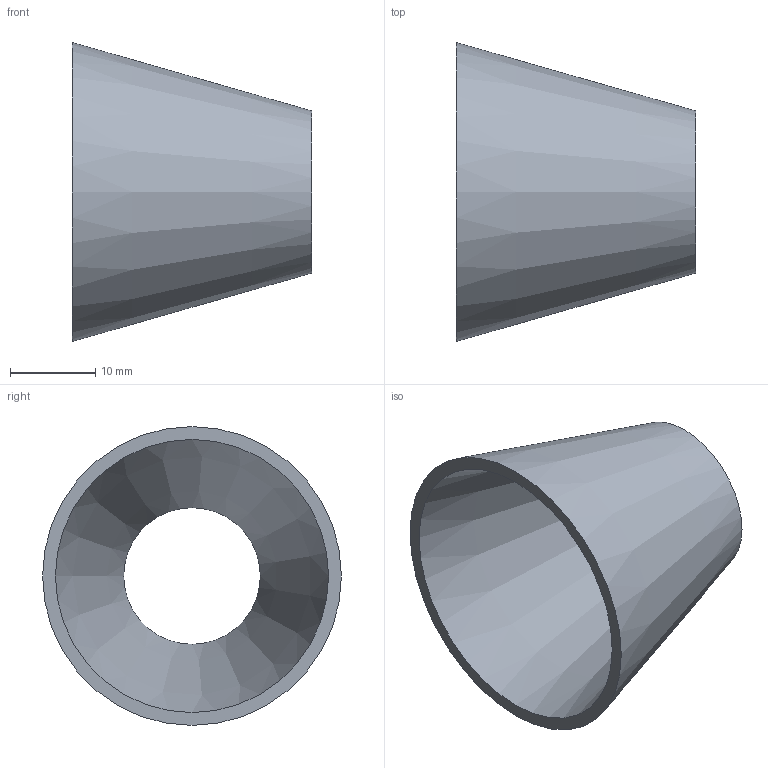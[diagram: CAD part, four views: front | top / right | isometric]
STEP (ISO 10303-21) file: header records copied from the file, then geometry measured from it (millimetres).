
FILE_DESCRIPTION(('FreeCAD Model'),'2;1');
FILE_NAME( '/home/martin/Documents/proyect/accesorios/stp/red-con_DN32-15.step', '2017-12-31T12:22:55',('Author'),(''), 'Open CASCADE STEP processor 6.8','FreeCAD','Unknown');
FILE_SCHEMA(('AUTOMOTIVE_DESIGN_CC2 { 1 2 10303 214 -1 1 5 4 }'));
Length unit declared in the file: millimetre
Products named in the file (1): red-con_DN32-15
Bounding box: 28 x 35 x 35 mm (x, y, z)
Volume: 3364.6 mm3; surface area: 4906 mm2
Topology: 1 solids, 1 shells, 4 faces, 6 edges, 4 vertices
Faces by surface type: cone 2, plane 2
Entity records: 191 total; most frequent: CARTESIAN_POINT 33, DIRECTION 26, ORIENTED_EDGE 12, PCURVE 12, DEFINITIONAL_REPRESENTATION 12, AXIS2_PLACEMENT_3D 9, CIRCLE 8, FACE_BOUND 6
